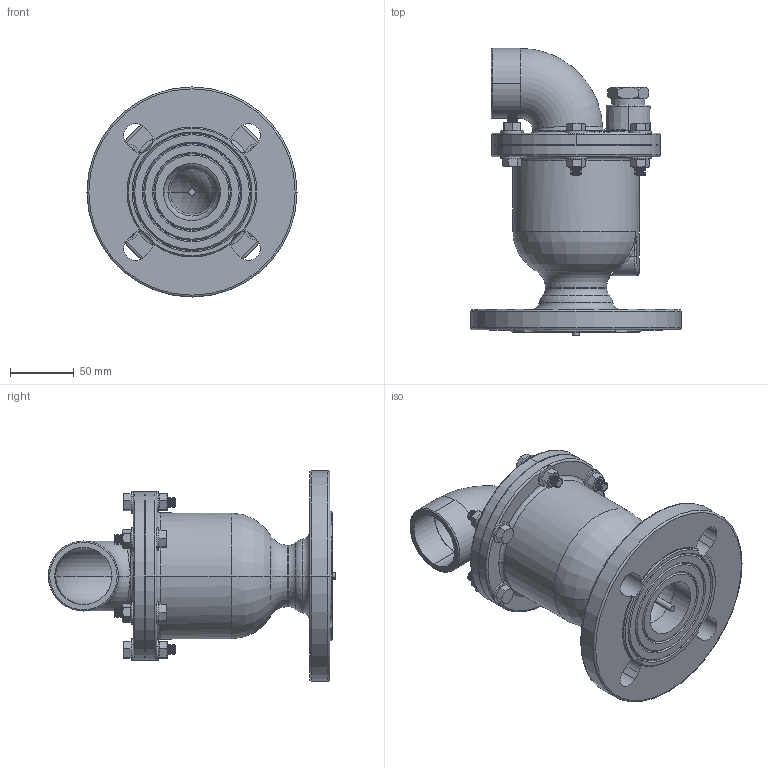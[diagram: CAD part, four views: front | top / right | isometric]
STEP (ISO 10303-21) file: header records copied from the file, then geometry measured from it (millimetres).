
FILE_DESCRIPTION (( 'STEP AP203' ), '1' );
FILE_NAME ('K-010-2 M1.STEP', '2015-11-10T14:10:16', ( '' ), ( '' ), 'SwSTEP 2.0', 'SolidWorks 2014', '' );
FILE_SCHEMA (( 'CONFIG_CONTROL_DESIGN' ));
Length unit declared in the file: millimetre
Products named in the file (1): K-010-2 M1
Bounding box: 165 x 225.6 x 165 mm (x, y, z)
Surface area: 170203 mm2 (no closed solid volume)
Topology: 0 solids, 47 shells, 534 faces, 1366 edges, 864 vertices
Faces by surface type: cone 254, plane 137, cylinder 69, torus 48, bspline 24, sphere 2
Entity records: 18781 total; most frequent: CARTESIAN_POINT 6013, DIRECTION 2792, ORIENTED_EDGE 2412, EDGE_CURVE 1358, AXIS2_PLACEMENT_3D 1179, VERTEX_POINT 864, CIRCLE 668, EDGE_LOOP 600
